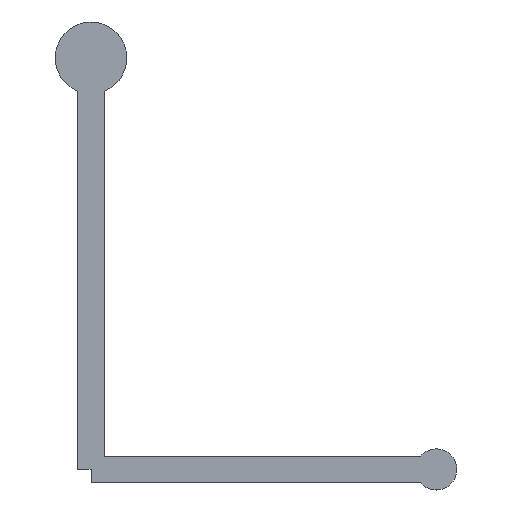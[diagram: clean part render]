
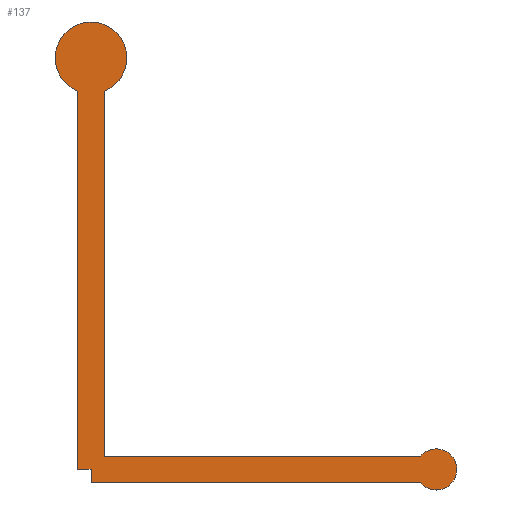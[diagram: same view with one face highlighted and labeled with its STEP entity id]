
A CAD part, top view. The second image highlights one B-rep face of the part: STEP entity #137.
In plain terms, the highlighted planar face has unit normal (0, 0, 1).
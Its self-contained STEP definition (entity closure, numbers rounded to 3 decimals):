
#21 = EDGE_CURVE('',#22,#24,#26,.T.);
#22 = VERTEX_POINT('',#23);
#23 = CARTESIAN_POINT('',(-27.,-16.,9.65));
#24 = VERTEX_POINT('',#25);
#25 = CARTESIAN_POINT('',(-27.,12.492,9.65));
#26 = SURFACE_CURVE('',#27,(#31,#43),.PCURVE_S1.);
#27 = LINE('',#28,#29);
#28 = CARTESIAN_POINT('',(-27.,-16.,9.65));
#29 = VECTOR('',#30,1.);
#30 = DIRECTION('',(0.,1.,0.));
#31 = PCURVE('',#32,#37);
#32 = PLANE('',#33);
#33 = AXIS2_PLACEMENT_3D('',#34,#35,#36);
#34 = CARTESIAN_POINT('',(-27.,-16.,9.05));
#35 = DIRECTION('',(1.,0.,0.));
#36 = DIRECTION('',(0.,0.,1.));
#37 = DEFINITIONAL_REPRESENTATION('',(#38),#42);
#38 = LINE('',#39,#40);
#39 = CARTESIAN_POINT('',(0.6,0.));
#40 = VECTOR('',#41,1.);
#41 = DIRECTION('',(0.,-1.));
#42 = ( GEOMETRIC_REPRESENTATION_CONTEXT(2) 
PARAMETRIC_REPRESENTATION_CONTEXT() REPRESENTATION_CONTEXT('2D SPACE',''
  ) );
#43 = PCURVE('',#44,#49);
#44 = PLANE('',#45);
#45 = AXIS2_PLACEMENT_3D('',#46,#47,#48);
#46 = CARTESIAN_POINT('',(-27.,-16.,9.65));
#47 = DIRECTION('',(0.,0.,1.));
#48 = DIRECTION('',(1.,0.,-0.));
#49 = DEFINITIONAL_REPRESENTATION('',(#50),#54);
#50 = LINE('',#51,#52);
#51 = CARTESIAN_POINT('',(0.,0.));
#52 = VECTOR('',#53,1.);
#53 = DIRECTION('',(0.,1.));
#54 = ( GEOMETRIC_REPRESENTATION_CONTEXT(2) 
PARAMETRIC_REPRESENTATION_CONTEXT() REPRESENTATION_CONTEXT('2D SPACE',''
  ) );
#72 = PLANE('',#73);
#73 = AXIS2_PLACEMENT_3D('',#74,#75,#76);
#74 = CARTESIAN_POINT('',(-27.,-16.,9.05));
#75 = DIRECTION('',(0.,1.,0.));
#76 = DIRECTION('',(0.,-0.,1.));
#126 = CYLINDRICAL_SURFACE('',#127,2.7);
#127 = AXIS2_PLACEMENT_3D('',#128,#129,#130);
#128 = CARTESIAN_POINT('',(-26.,15.,9.05));
#129 = DIRECTION('',(-0.,-0.,-1.));
#130 = DIRECTION('',(1.,0.,0.));
#137 = ADVANCED_FACE('',(#138),#44,.T.);
#138 = FACE_BOUND('',#139,.T.);
#139 = EDGE_LOOP('',(#140,#170,#198,#220,#221,#244,#272,#300));
#140 = ORIENTED_EDGE('',*,*,#141,.F.);
#141 = EDGE_CURVE('',#142,#144,#146,.T.);
#142 = VERTEX_POINT('',#143);
#143 = CARTESIAN_POINT('',(-25.,-15.,9.65));
#144 = VERTEX_POINT('',#145);
#145 = CARTESIAN_POINT('',(-1.184,-15.,9.65));
#146 = SURFACE_CURVE('',#147,(#151,#158),.PCURVE_S1.);
#147 = LINE('',#148,#149);
#148 = CARTESIAN_POINT('',(-26.,-15.,9.65));
#149 = VECTOR('',#150,1.);
#150 = DIRECTION('',(1.,0.,0.));
#151 = PCURVE('',#44,#152);
#152 = DEFINITIONAL_REPRESENTATION('',(#153),#157);
#153 = LINE('',#154,#155);
#154 = CARTESIAN_POINT('',(1.,1.));
#155 = VECTOR('',#156,1.);
#156 = DIRECTION('',(1.,0.));
#157 = ( GEOMETRIC_REPRESENTATION_CONTEXT(2) 
PARAMETRIC_REPRESENTATION_CONTEXT() REPRESENTATION_CONTEXT('2D SPACE',''
  ) );
#158 = PCURVE('',#159,#164);
#159 = PLANE('',#160);
#160 = AXIS2_PLACEMENT_3D('',#161,#162,#163);
#161 = CARTESIAN_POINT('',(-26.,-15.,9.05));
#162 = DIRECTION('',(0.,1.,0.));
#163 = DIRECTION('',(0.,-0.,1.));
#164 = DEFINITIONAL_REPRESENTATION('',(#165),#169);
#165 = LINE('',#166,#167);
#166 = CARTESIAN_POINT('',(0.6,0.));
#167 = VECTOR('',#168,1.);
#168 = DIRECTION('',(0.,1.));
#169 = ( GEOMETRIC_REPRESENTATION_CONTEXT(2) 
PARAMETRIC_REPRESENTATION_CONTEXT() REPRESENTATION_CONTEXT('2D SPACE',''
  ) );
#170 = ORIENTED_EDGE('',*,*,#171,.T.);
#171 = EDGE_CURVE('',#142,#172,#174,.T.);
#172 = VERTEX_POINT('',#173);
#173 = CARTESIAN_POINT('',(-25.,12.492,9.65));
#174 = SURFACE_CURVE('',#175,(#179,#186),.PCURVE_S1.);
#175 = LINE('',#176,#177);
#176 = CARTESIAN_POINT('',(-25.,-16.,9.65));
#177 = VECTOR('',#178,1.);
#178 = DIRECTION('',(0.,1.,0.));
#179 = PCURVE('',#44,#180);
#180 = DEFINITIONAL_REPRESENTATION('',(#181),#185);
#181 = LINE('',#182,#183);
#182 = CARTESIAN_POINT('',(2.,0.));
#183 = VECTOR('',#184,1.);
#184 = DIRECTION('',(0.,1.));
#185 = ( GEOMETRIC_REPRESENTATION_CONTEXT(2) 
PARAMETRIC_REPRESENTATION_CONTEXT() REPRESENTATION_CONTEXT('2D SPACE',''
  ) );
#186 = PCURVE('',#187,#192);
#187 = PLANE('',#188);
#188 = AXIS2_PLACEMENT_3D('',#189,#190,#191);
#189 = CARTESIAN_POINT('',(-25.,-16.,9.05));
#190 = DIRECTION('',(1.,0.,0.));
#191 = DIRECTION('',(0.,0.,1.));
#192 = DEFINITIONAL_REPRESENTATION('',(#193),#197);
#193 = LINE('',#194,#195);
#194 = CARTESIAN_POINT('',(0.6,0.));
#195 = VECTOR('',#196,1.);
#196 = DIRECTION('',(0.,-1.));
#197 = ( GEOMETRIC_REPRESENTATION_CONTEXT(2) 
PARAMETRIC_REPRESENTATION_CONTEXT() REPRESENTATION_CONTEXT('2D SPACE',''
  ) );
#198 = ORIENTED_EDGE('',*,*,#199,.T.);
#199 = EDGE_CURVE('',#172,#24,#200,.T.);
#200 = SURFACE_CURVE('',#201,(#206,#213),.PCURVE_S1.);
#201 = CIRCLE('',#202,2.7);
#202 = AXIS2_PLACEMENT_3D('',#203,#204,#205);
#203 = CARTESIAN_POINT('',(-26.,15.,9.65));
#204 = DIRECTION('',(-0.,0.,1.));
#205 = DIRECTION('',(0.37,-0.929,0.));
#206 = PCURVE('',#44,#207);
#207 = DEFINITIONAL_REPRESENTATION('',(#208),#212);
#208 = CIRCLE('',#209,2.7);
#209 = AXIS2_PLACEMENT_2D('',#210,#211);
#210 = CARTESIAN_POINT('',(1.,31.));
#211 = DIRECTION('',(0.37,-0.929));
#212 = ( GEOMETRIC_REPRESENTATION_CONTEXT(2) 
PARAMETRIC_REPRESENTATION_CONTEXT() REPRESENTATION_CONTEXT('2D SPACE',''
  ) );
#213 = PCURVE('',#126,#214);
#214 = DEFINITIONAL_REPRESENTATION('',(#215),#219);
#215 = LINE('',#216,#217);
#216 = CARTESIAN_POINT('',(7.475,-0.6));
#217 = VECTOR('',#218,1.);
#218 = DIRECTION('',(-1.,0.));
#219 = ( GEOMETRIC_REPRESENTATION_CONTEXT(2) 
PARAMETRIC_REPRESENTATION_CONTEXT() REPRESENTATION_CONTEXT('2D SPACE',''
  ) );
#220 = ORIENTED_EDGE('',*,*,#21,.F.);
#221 = ORIENTED_EDGE('',*,*,#222,.T.);
#222 = EDGE_CURVE('',#22,#223,#225,.T.);
#223 = VERTEX_POINT('',#224);
#224 = CARTESIAN_POINT('',(-26.,-16.,9.65));
#225 = SURFACE_CURVE('',#226,(#230,#237),.PCURVE_S1.);
#226 = LINE('',#227,#228);
#227 = CARTESIAN_POINT('',(-27.,-16.,9.65));
#228 = VECTOR('',#229,1.);
#229 = DIRECTION('',(1.,0.,0.));
#230 = PCURVE('',#44,#231);
#231 = DEFINITIONAL_REPRESENTATION('',(#232),#236);
#232 = LINE('',#233,#234);
#233 = CARTESIAN_POINT('',(0.,0.));
#234 = VECTOR('',#235,1.);
#235 = DIRECTION('',(1.,0.));
#236 = ( GEOMETRIC_REPRESENTATION_CONTEXT(2) 
PARAMETRIC_REPRESENTATION_CONTEXT() REPRESENTATION_CONTEXT('2D SPACE',''
  ) );
#237 = PCURVE('',#72,#238);
#238 = DEFINITIONAL_REPRESENTATION('',(#239),#243);
#239 = LINE('',#240,#241);
#240 = CARTESIAN_POINT('',(0.6,0.));
#241 = VECTOR('',#242,1.);
#242 = DIRECTION('',(0.,1.));
#243 = ( GEOMETRIC_REPRESENTATION_CONTEXT(2) 
PARAMETRIC_REPRESENTATION_CONTEXT() REPRESENTATION_CONTEXT('2D SPACE',''
  ) );
#244 = ORIENTED_EDGE('',*,*,#245,.F.);
#245 = EDGE_CURVE('',#246,#223,#248,.T.);
#246 = VERTEX_POINT('',#247);
#247 = CARTESIAN_POINT('',(-26.,-17.,9.65));
#248 = SURFACE_CURVE('',#249,(#253,#260),.PCURVE_S1.);
#249 = LINE('',#250,#251);
#250 = CARTESIAN_POINT('',(-26.,-17.,9.65));
#251 = VECTOR('',#252,1.);
#252 = DIRECTION('',(0.,1.,0.));
#253 = PCURVE('',#44,#254);
#254 = DEFINITIONAL_REPRESENTATION('',(#255),#259);
#255 = LINE('',#256,#257);
#256 = CARTESIAN_POINT('',(1.,-1.));
#257 = VECTOR('',#258,1.);
#258 = DIRECTION('',(0.,1.));
#259 = ( GEOMETRIC_REPRESENTATION_CONTEXT(2) 
PARAMETRIC_REPRESENTATION_CONTEXT() REPRESENTATION_CONTEXT('2D SPACE',''
  ) );
#260 = PCURVE('',#261,#266);
#261 = PLANE('',#262);
#262 = AXIS2_PLACEMENT_3D('',#263,#264,#265);
#263 = CARTESIAN_POINT('',(-26.,-17.,9.05));
#264 = DIRECTION('',(1.,0.,0.));
#265 = DIRECTION('',(0.,0.,1.));
#266 = DEFINITIONAL_REPRESENTATION('',(#267),#271);
#267 = LINE('',#268,#269);
#268 = CARTESIAN_POINT('',(0.6,0.));
#269 = VECTOR('',#270,1.);
#270 = DIRECTION('',(0.,-1.));
#271 = ( GEOMETRIC_REPRESENTATION_CONTEXT(2) 
PARAMETRIC_REPRESENTATION_CONTEXT() REPRESENTATION_CONTEXT('2D SPACE',''
  ) );
#272 = ORIENTED_EDGE('',*,*,#273,.T.);
#273 = EDGE_CURVE('',#246,#274,#276,.T.);
#274 = VERTEX_POINT('',#275);
#275 = CARTESIAN_POINT('',(-1.184,-17.,9.65));
#276 = SURFACE_CURVE('',#277,(#281,#288),.PCURVE_S1.);
#277 = LINE('',#278,#279);
#278 = CARTESIAN_POINT('',(-26.,-17.,9.65));
#279 = VECTOR('',#280,1.);
#280 = DIRECTION('',(1.,0.,0.));
#281 = PCURVE('',#44,#282);
#282 = DEFINITIONAL_REPRESENTATION('',(#283),#287);
#283 = LINE('',#284,#285);
#284 = CARTESIAN_POINT('',(1.,-1.));
#285 = VECTOR('',#286,1.);
#286 = DIRECTION('',(1.,0.));
#287 = ( GEOMETRIC_REPRESENTATION_CONTEXT(2) 
PARAMETRIC_REPRESENTATION_CONTEXT() REPRESENTATION_CONTEXT('2D SPACE',''
  ) );
#288 = PCURVE('',#289,#294);
#289 = PLANE('',#290);
#290 = AXIS2_PLACEMENT_3D('',#291,#292,#293);
#291 = CARTESIAN_POINT('',(-26.,-17.,9.05));
#292 = DIRECTION('',(0.,1.,0.));
#293 = DIRECTION('',(0.,-0.,1.));
#294 = DEFINITIONAL_REPRESENTATION('',(#295),#299);
#295 = LINE('',#296,#297);
#296 = CARTESIAN_POINT('',(0.6,0.));
#297 = VECTOR('',#298,1.);
#298 = DIRECTION('',(0.,1.));
#299 = ( GEOMETRIC_REPRESENTATION_CONTEXT(2) 
PARAMETRIC_REPRESENTATION_CONTEXT() REPRESENTATION_CONTEXT('2D SPACE',''
  ) );
#300 = ORIENTED_EDGE('',*,*,#301,.T.);
#301 = EDGE_CURVE('',#274,#144,#302,.T.);
#302 = SURFACE_CURVE('',#303,(#308,#315),.PCURVE_S1.);
#303 = CIRCLE('',#304,1.55);
#304 = AXIS2_PLACEMENT_3D('',#305,#306,#307);
#305 = CARTESIAN_POINT('',(0.,-16.,9.65));
#306 = DIRECTION('',(0.,0.,1.));
#307 = DIRECTION('',(-0.764,-0.645,0.));
#308 = PCURVE('',#44,#309);
#309 = DEFINITIONAL_REPRESENTATION('',(#310),#314);
#310 = CIRCLE('',#311,1.55);
#311 = AXIS2_PLACEMENT_2D('',#312,#313);
#312 = CARTESIAN_POINT('',(27.,0.));
#313 = DIRECTION('',(-0.764,-0.645));
#314 = ( GEOMETRIC_REPRESENTATION_CONTEXT(2) 
PARAMETRIC_REPRESENTATION_CONTEXT() REPRESENTATION_CONTEXT('2D SPACE',''
  ) );
#315 = PCURVE('',#316,#321);
#316 = CYLINDRICAL_SURFACE('',#317,1.55);
#317 = AXIS2_PLACEMENT_3D('',#318,#319,#320);
#318 = CARTESIAN_POINT('',(0.,-16.,9.05));
#319 = DIRECTION('',(-0.,-0.,-1.));
#320 = DIRECTION('',(1.,0.,0.));
#321 = DEFINITIONAL_REPRESENTATION('',(#322),#326);
#322 = LINE('',#323,#324);
#323 = CARTESIAN_POINT('',(8.724,-0.6));
#324 = VECTOR('',#325,1.);
#325 = DIRECTION('',(-1.,-0.));
#326 = ( GEOMETRIC_REPRESENTATION_CONTEXT(2) 
PARAMETRIC_REPRESENTATION_CONTEXT() REPRESENTATION_CONTEXT('2D SPACE',''
  ) );
